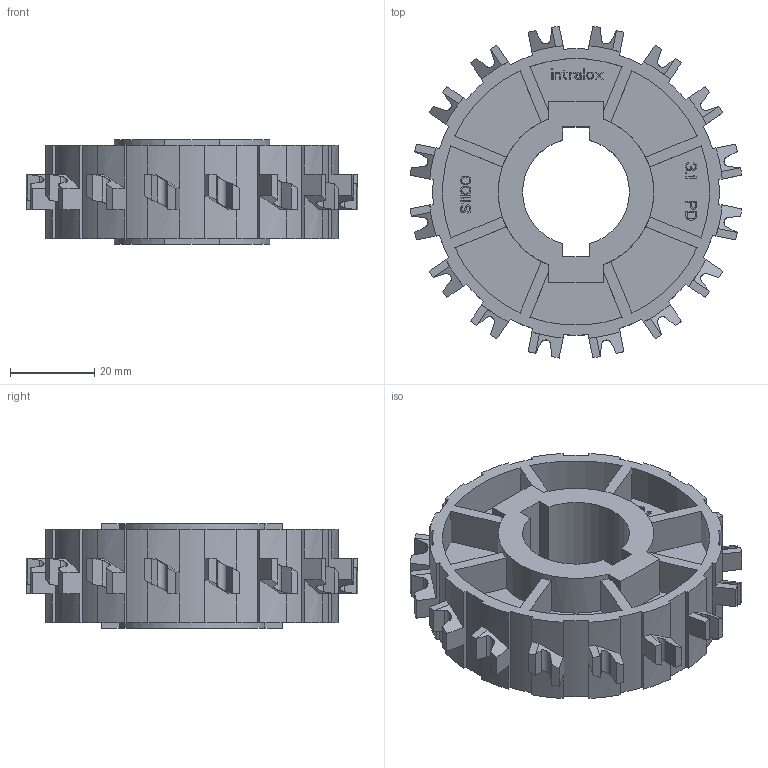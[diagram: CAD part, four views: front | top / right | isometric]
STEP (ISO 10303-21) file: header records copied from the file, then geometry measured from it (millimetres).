
FILE_DESCRIPTION((''),'2;1');
FILE_NAME('S1100_SPROCKET_31X1_PILOT','2008-12-12T',('jmumphre'),(''),'PRO/ENGINEER BY PARAMETRIC TECHNOLOGY CORPORATION, 2008150','PRO/ENGINEER BY PARAMETRIC TECHNOLOGY CORPORATION, 2008150','');
FILE_SCHEMA(('CONFIG_CONTROL_DESIGN'));
Length unit declared in the file: inch
Products named in the file (1): S1100_SPROCKET_31X1_PILOT
Bounding box: 79 x 79 x 24.89 mm (x, y, z)
Volume: 44747 mm3; surface area: 25364.2 mm2
Topology: 1 solids, 1 shells, 793 faces, 2260 edges, 1496 vertices
Faces by surface type: plane 707, cylinder 86
Entity records: 26050 total; most frequent: CARTESIAN_POINT 5301, ORIENTED_EDGE 4520, DIRECTION 3946, EDGE_CURVE 2260, VECTOR 2032, LINE 2032, VERTEX_POINT 1496, AXIS2_PLACEMENT_3D 957
